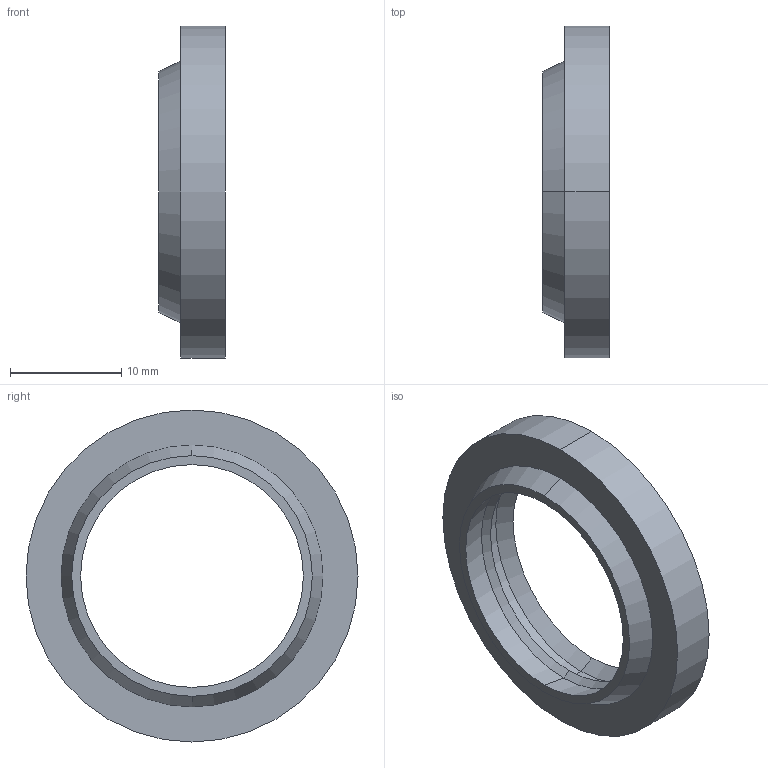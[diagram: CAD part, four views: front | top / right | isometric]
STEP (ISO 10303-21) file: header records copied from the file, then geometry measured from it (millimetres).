
FILE_DESCRIPTION (( 'STEP AP214' ), '1' );
FILE_NAME ('PAW01-20.STEP', '2011-03-11T11:56:44', ( '' ), ( '' ), 'SwSTEP 2.0', 'SolidWorks 2010', '' );
FILE_SCHEMA (( 'AUTOMOTIVE_DESIGN' ));
Length unit declared in the file: millimetre
Products named in the file (1): PAW01-20
Bounding box: 6 x 29.8 x 29.8 mm (x, y, z)
Volume: 1561.4 mm3; surface area: 1675.4 mm2
Topology: 1 solids, 1 shells, 17 faces, 34 edges, 20 vertices
Faces by surface type: cone 10, cylinder 4, plane 3
Entity records: 482 total; most frequent: DIRECTION 90, CARTESIAN_POINT 72, ORIENTED_EDGE 68, AXIS2_PLACEMENT_3D 38, EDGE_CURVE 34, CIRCLE 20, EDGE_LOOP 20, VERTEX_POINT 20
